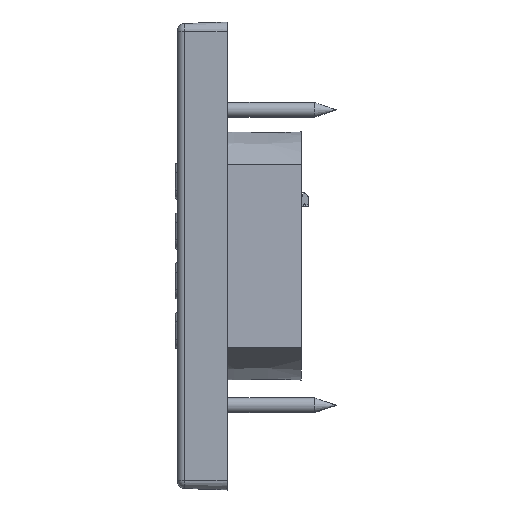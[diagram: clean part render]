
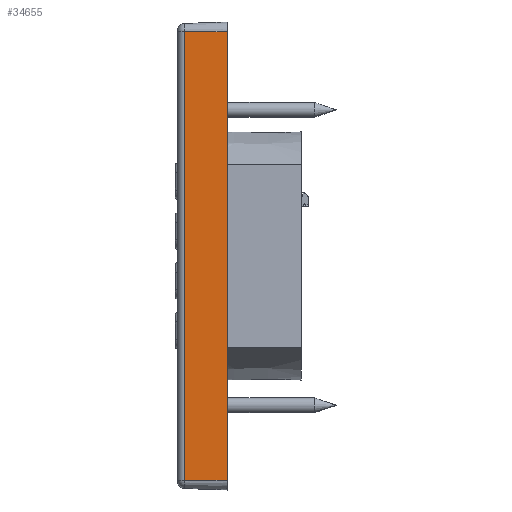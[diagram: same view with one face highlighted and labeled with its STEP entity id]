
A CAD part, left-side view. The second image highlights one B-rep face of the part: STEP entity #34655.
In plain terms, the highlighted planar face has unit normal (-0.999, 0.035, 0).
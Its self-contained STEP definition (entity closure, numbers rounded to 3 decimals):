
#2551 = EDGE_CURVE ( 'NONE', #152079, #46108, #123462, .T. ) ;
#5954 = ORIENTED_EDGE ( 'NONE', *, *, #2551, .T. ) ;
#15479 = LINE ( 'NONE', #55780, #100771 ) ;
#18031 = DIRECTION ( 'NONE',  ( -0.035, -0.999, 0. ) ) ;
#19957 = FACE_OUTER_BOUND ( 'NONE', #134091, .T. ) ;
#29466 = CARTESIAN_POINT ( 'NONE',  ( -47., 0., 0. ) ) ;
#30286 = VECTOR ( 'NONE', #68651, 1000. ) ;
#31479 = EDGE_CURVE ( 'NONE', #46108, #95953, #91305, .T. ) ;
#31898 = CARTESIAN_POINT ( 'NONE',  ( -47., 0., -45. ) ) ;
#32246 = CARTESIAN_POINT ( 'NONE',  ( -46.701, 8.552, 45. ) ) ;
#34655 = ADVANCED_FACE ( 'NONE', ( #19957 ), #89110, .T. ) ;
#41367 = DIRECTION ( 'NONE',  ( -0.999, 0.035, 0. ) ) ;
#46108 = VERTEX_POINT ( 'NONE', #99504 ) ;
#46504 = ORIENTED_EDGE ( 'NONE', *, *, #140571, .T. ) ;
#53255 = DIRECTION ( 'NONE',  ( 0., 0., -1. ) ) ;
#55780 = CARTESIAN_POINT ( 'NONE',  ( -47., 0., 45. ) ) ;
#63269 = ORIENTED_EDGE ( 'NONE', *, *, #103474, .T. ) ;
#68651 = DIRECTION ( 'NONE',  ( -0.035, -0.999, 0. ) ) ;
#75015 = VECTOR ( 'NONE', #85788, 1000. ) ;
#85788 = DIRECTION ( 'NONE',  ( 0., 0., 1. ) ) ;
#88288 = AXIS2_PLACEMENT_3D ( 'NONE', #29466, #41367, #18031 ) ;
#89110 = PLANE ( 'NONE',  #88288 ) ;
#91305 = LINE ( 'NONE', #91939, #30286 ) ;
#91939 = CARTESIAN_POINT ( 'NONE',  ( -47., 0., -45. ) ) ;
#95953 = VERTEX_POINT ( 'NONE', #31898 ) ;
#96354 = ORIENTED_EDGE ( 'NONE', *, *, #31479, .T. ) ;
#99504 = CARTESIAN_POINT ( 'NONE',  ( -46.701, 8.552, -45. ) ) ;
#100771 = VECTOR ( 'NONE', #150600, 1000. ) ;
#103474 = EDGE_CURVE ( 'NONE', #95953, #118944, #106498, .T. ) ;
#104928 = VECTOR ( 'NONE', #53255, 1000. ) ;
#106498 = LINE ( 'NONE', #121014, #75015 ) ;
#118944 = VERTEX_POINT ( 'NONE', #136848 ) ;
#121014 = CARTESIAN_POINT ( 'NONE',  ( -47., 0., 0. ) ) ;
#123462 = LINE ( 'NONE', #136660, #104928 ) ;
#134091 = EDGE_LOOP ( 'NONE', ( #46504, #5954, #96354, #63269 ) ) ;
#136660 = CARTESIAN_POINT ( 'NONE',  ( -46.701, 8.552, -45. ) ) ;
#136848 = CARTESIAN_POINT ( 'NONE',  ( -47., 0., 45. ) ) ;
#140571 = EDGE_CURVE ( 'NONE', #118944, #152079, #15479, .T. ) ;
#150600 = DIRECTION ( 'NONE',  ( 0.035, 0.999, 0. ) ) ;
#152079 = VERTEX_POINT ( 'NONE', #32246 ) ;
